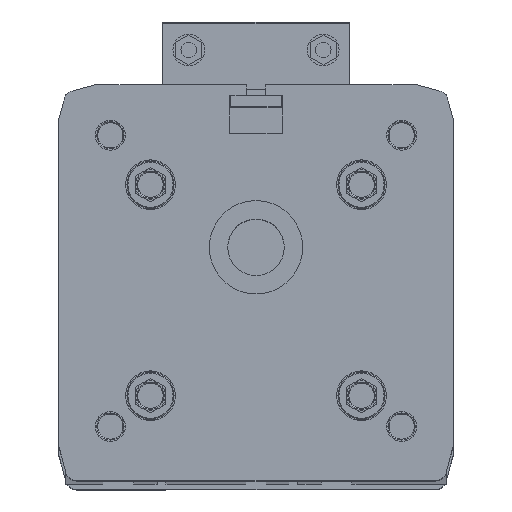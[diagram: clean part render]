
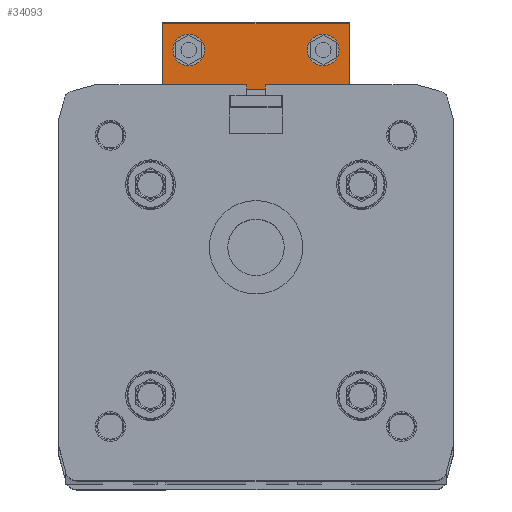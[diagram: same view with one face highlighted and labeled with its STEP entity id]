
A CAD part, top view. The second image highlights one B-rep face of the part: STEP entity #34093.
In plain terms, the highlighted planar face has unit normal (0, 0, 1) as drawn and (-1, 0, 0) by its records, which use the part's own axes.
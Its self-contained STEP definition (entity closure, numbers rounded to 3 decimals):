
#15189 = CARTESIAN_POINT ( 'NONE',  ( -117.5, 1.5, 47.25 ) ) ;
#15190 = DIRECTION ( 'NONE',  ( 0., 0., 1. ) ) ;
#15191 = DIRECTION ( 'NONE',  ( 1., 0., 0. ) ) ;
#15192 = CARTESIAN_POINT ( 'NONE',  ( -117.5, 1.5, 43. ) ) ;
#15193 = AXIS2_PLACEMENT_3D ( 'NONE', #15192, #15191, #15190 ) ;
#15194 = CIRCLE ( 'NONE', #15193, 4.25 ) ;
#15195 = CARTESIAN_POINT ( 'NONE',  ( -117.5, 1.5, 38.75 ) ) ;
#15267 = CARTESIAN_POINT ( 'NONE',  ( -117.5, 1.5, 11.25 ) ) ;
#15429 = DIRECTION ( 'NONE',  ( 0., 0., 1. ) ) ;
#15430 = DIRECTION ( 'NONE',  ( 1., 0., 0. ) ) ;
#15431 = CARTESIAN_POINT ( 'NONE',  ( -117.5, 1.5, 7. ) ) ;
#15432 = AXIS2_PLACEMENT_3D ( 'NONE', #15431, #15430, #15429 ) ;
#15433 = CIRCLE ( 'NONE', #15432, 4.25 ) ;
#15434 = CARTESIAN_POINT ( 'NONE',  ( -117.5, 1.5, 2.75 ) ) ;
#15474 = CARTESIAN_POINT ( 'NONE',  ( -117.5, 8.5, 0.05 ) ) ;
#15475 = DIRECTION ( 'NONE',  ( 0., 0., 1. ) ) ;
#15476 = VECTOR ( 'NONE', #15475, 1000. ) ;
#15477 = CARTESIAN_POINT ( 'NONE',  ( -117.5, 8.5, 49.95 ) ) ;
#15478 = LINE ( 'NONE', #15477, #15476 ) ;
#15479 = CARTESIAN_POINT ( 'NONE',  ( -117.5, 8.5, 49.95 ) ) ;
#15480 = DIRECTION ( 'NONE',  ( 0., -1., 0. ) ) ;
#15481 = VECTOR ( 'NONE', #15480, 1000. ) ;
#15482 = CARTESIAN_POINT ( 'NONE',  ( -117.5, 8.5, 49.95 ) ) ;
#15483 = LINE ( 'NONE', #15482, #15481 ) ;
#15484 = CARTESIAN_POINT ( 'NONE',  ( -117.5, -9., 0.05 ) ) ;
#15485 = CARTESIAN_POINT ( 'NONE',  ( -117.5, -9., 49.95 ) ) ;
#15512 = DIRECTION ( 'NONE',  ( 0., 0., -1. ) ) ;
#15513 = DIRECTION ( 'NONE',  ( -1., 0., 0. ) ) ;
#15514 = CARTESIAN_POINT ( 'NONE',  ( -117.5, -10.5, 49.95 ) ) ;
#15515 = AXIS2_PLACEMENT_3D ( 'NONE', #15514, #15513, #15512 ) ;
#15516 = PLANE ( 'NONE',  #15515 ) ;
#15517 = FACE_BOUND ( 'NONE', #34081, .T. ) ;
#15518 = FACE_OUTER_BOUND ( 'NONE', #34149, .T. ) ;
#15519 = FACE_BOUND ( 'NONE', #34094, .T. ) ;
#15520 = DIRECTION ( 'NONE',  ( 0., 0., 1. ) ) ;
#15521 = DIRECTION ( 'NONE',  ( 1., 0., 0. ) ) ;
#15522 = CARTESIAN_POINT ( 'NONE',  ( -117.5, 1.5, 7. ) ) ;
#15523 = AXIS2_PLACEMENT_3D ( 'NONE', #15522, #15521, #15520 ) ;
#15524 = CIRCLE ( 'NONE', #15523, 4.25 ) ;
#15604 = DIRECTION ( 'NONE',  ( 0., 0., -1. ) ) ;
#15605 = VECTOR ( 'NONE', #15604, 1000. ) ;
#15606 = CARTESIAN_POINT ( 'NONE',  ( -117.5, -9., -0.25 ) ) ;
#15607 = LINE ( 'NONE', #15606, #15605 ) ;
#15608 = DIRECTION ( 'NONE',  ( 0., 0., 1. ) ) ;
#15609 = DIRECTION ( 'NONE',  ( 1., 0., 0. ) ) ;
#15610 = CARTESIAN_POINT ( 'NONE',  ( -117.5, 1.5, 43. ) ) ;
#15611 = AXIS2_PLACEMENT_3D ( 'NONE', #15610, #15609, #15608 ) ;
#15612 = CIRCLE ( 'NONE', #15611, 4.25 ) ;
#15631 = DIRECTION ( 'NONE',  ( 0., 1., 0. ) ) ;
#15632 = VECTOR ( 'NONE', #15631, 1000. ) ;
#15633 = CARTESIAN_POINT ( 'NONE',  ( -117.5, 8.5, 0.05 ) ) ;
#15634 = LINE ( 'NONE', #15633, #15632 ) ;
#33915 = VERTEX_POINT ( 'NONE', #15195 ) ;
#33917 = EDGE_CURVE ( 'NONE', #33918, #33915, #15194, .T. ) ;
#33918 = VERTEX_POINT ( 'NONE', #15189 ) ;
#33946 = VERTEX_POINT ( 'NONE', #15267 ) ;
#34027 = VERTEX_POINT ( 'NONE', #15434 ) ;
#34029 = EDGE_CURVE ( 'NONE', #33946, #34027, #15433, .T. ) ;
#34072 = VERTEX_POINT ( 'NONE', #15485 ) ;
#34073 = VERTEX_POINT ( 'NONE', #15484 ) ;
#34074 = ORIENTED_EDGE ( 'NONE', *, *, #34075, .F. ) ;
#34075 = EDGE_CURVE ( 'NONE', #34076, #34072, #15483, .T. ) ;
#34076 = VERTEX_POINT ( 'NONE', #15479 ) ;
#34077 = ORIENTED_EDGE ( 'NONE', *, *, #34078, .F. ) ;
#34078 = EDGE_CURVE ( 'NONE', #34079, #34076, #15478, .T. ) ;
#34079 = VERTEX_POINT ( 'NONE', #15474 ) ;
#34080 = ORIENTED_EDGE ( 'NONE', *, *, #34133, .F. ) ;
#34081 = EDGE_LOOP ( 'NONE', ( #34134, #34135 ) ) ;
#34092 = EDGE_CURVE ( 'NONE', #34027, #33946, #15524, .T. ) ;
#34093 = ADVANCED_FACE ( 'NONE', ( #15519, #15518, #15517 ), #15516, .T. ) ;
#34094 = EDGE_LOOP ( 'NONE', ( #34095, #34147 ) ) ;
#34095 = ORIENTED_EDGE ( 'NONE', *, *, #33917, .T. ) ;
#34133 = EDGE_CURVE ( 'NONE', #34073, #34079, #15634, .T. ) ;
#34134 = ORIENTED_EDGE ( 'NONE', *, *, #34029, .T. ) ;
#34135 = ORIENTED_EDGE ( 'NONE', *, *, #34092, .T. ) ;
#34147 = ORIENTED_EDGE ( 'NONE', *, *, #34148, .T. ) ;
#34148 = EDGE_CURVE ( 'NONE', #33915, #33918, #15612, .T. ) ;
#34149 = EDGE_LOOP ( 'NONE', ( #34150, #34074, #34077, #34080 ) ) ;
#34150 = ORIENTED_EDGE ( 'NONE', *, *, #34151, .F. ) ;
#34151 = EDGE_CURVE ( 'NONE', #34072, #34073, #15607, .T. ) ;
